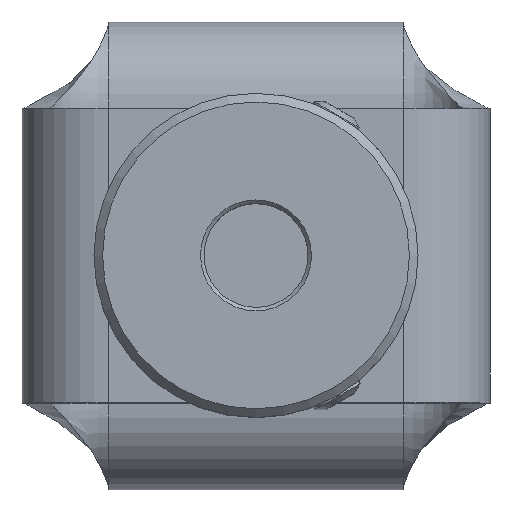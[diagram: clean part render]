
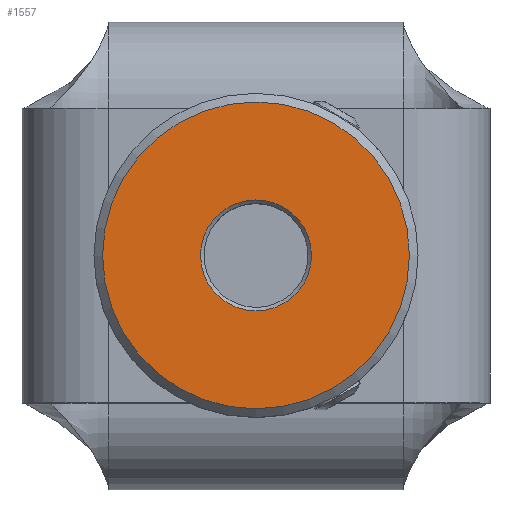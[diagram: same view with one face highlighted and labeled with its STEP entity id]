
A CAD part, top view. The second image highlights one B-rep face of the part: STEP entity #1557.
In plain terms, the highlighted planar face has unit normal (0, 0, 1).
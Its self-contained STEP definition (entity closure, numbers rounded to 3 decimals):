
#43=FACE_BOUND('',#375,.T.);
#262=FACE_OUTER_BOUND('',#374,.T.);
#374=EDGE_LOOP('',(#1318));
#375=EDGE_LOOP('',(#1319));
#511=CIRCLE('',#1699,3.2);
#513=CIRCLE('',#1703,8.85);
#781=VERTEX_POINT('',#2952);
#785=VERTEX_POINT('',#3028);
#969=EDGE_CURVE('',#781,#781,#511,.T.);
#973=EDGE_CURVE('',#785,#785,#513,.T.);
#1318=ORIENTED_EDGE('',*,*,#973,.F.);
#1319=ORIENTED_EDGE('',*,*,#969,.F.);
#1478=PLANE('',#1702);
#1557=ADVANCED_FACE('',(#262,#43),#1478,.F.);
#1699=AXIS2_PLACEMENT_3D('',#2953,#2035,#2036);
#1702=AXIS2_PLACEMENT_3D('',#3027,#2041,#2042);
#1703=AXIS2_PLACEMENT_3D('',#3029,#2043,#2044);
#2035=DIRECTION('center_axis',(0.,0.,1.));
#2036=DIRECTION('ref_axis',(-1.,0.,0.));
#2041=DIRECTION('center_axis',(0.,0.,-1.));
#2042=DIRECTION('ref_axis',(-1.,0.,0.));
#2043=DIRECTION('center_axis',(0.,0.,-1.));
#2044=DIRECTION('ref_axis',(-1.,0.,0.));
#2952=CARTESIAN_POINT('',(3.2,0.,9.));
#2953=CARTESIAN_POINT('Origin',(0.,0.,9.));
#3027=CARTESIAN_POINT('Origin',(0.,0.,9.));
#3028=CARTESIAN_POINT('',(8.85,0.,9.));
#3029=CARTESIAN_POINT('Origin',(0.,0.,9.));
